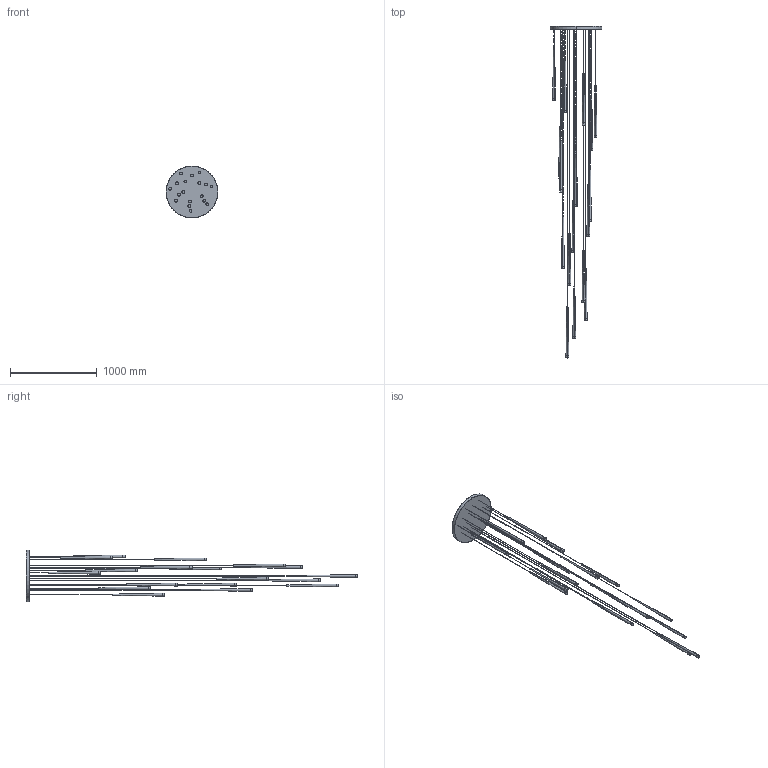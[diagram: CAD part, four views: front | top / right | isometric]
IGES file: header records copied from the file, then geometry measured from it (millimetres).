
Start section: SolidWorks IGES file using analytic representation for surfaces
Global section: file name: F:\燠隴矨\3D\10堎\Slender Cone Chandelier-18H.IGS; native system: SolidWorks 2022; preprocessor: SolidWorks 2022; author: MyPC; date: 231011.091737; units: millimetre
Bounding box: 600 x 3835 x 600 mm (x, y, z)
Surface area: 1730587.4 mm2 (no closed solid volume)
Topology: 0 solids, 0 shells, 223 faces, 5888 edges, 5888 vertices
Faces by surface type: revolution 112, bspline 111
